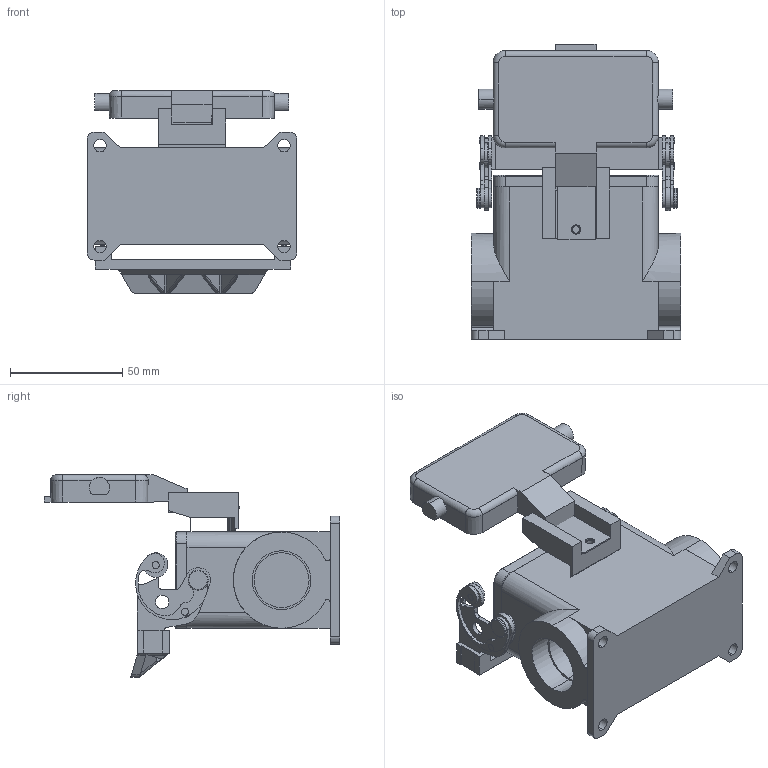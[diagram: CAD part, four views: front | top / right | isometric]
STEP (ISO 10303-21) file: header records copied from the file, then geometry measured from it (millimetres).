
FILE_DESCRIPTION (( 'STEP AP214' ), '1' );
FILE_NAME ('CAP-10LS.STEP', '2006-10-18T17:24:20', ( 'Mencom' ), ( 'Mencom Corporation' ), 'SwSTEP 2.0', 'SolidWorks 2006104', '' );
FILE_SCHEMA (( 'AUTOMOTIVE_DESIGN' ));
Length unit declared in the file: inch
Products named in the file (1): CAP-10LS
Bounding box: 93.5 x 131.52 x 90.35 mm (x, y, z)
Surface area: 70537.1 mm2 (no closed solid volume)
Topology: 0 solids, 25 shells, 421 faces, 1307 edges, 904 vertices
Faces by surface type: plane 210, cylinder 188, torus 19, cone 4
Entity records: 20293 total; most frequent: CARTESIAN_POINT 2870, DIRECTION 2594, ORIENTED_EDGE 2320, EDGE_CURVE 1307, AXIS2_PLACEMENT_3D 918, VERTEX_POINT 904, LINE 758, VECTOR 758
